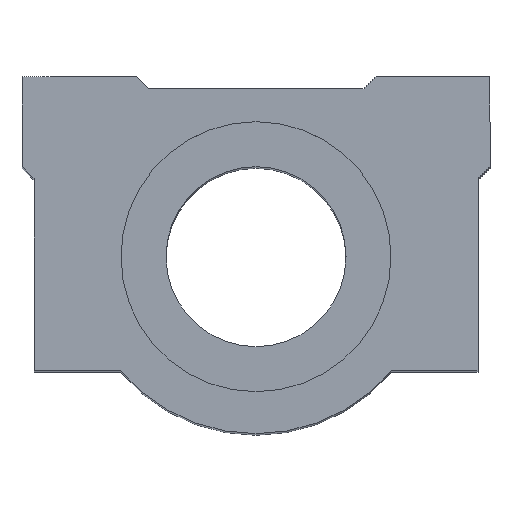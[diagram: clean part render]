
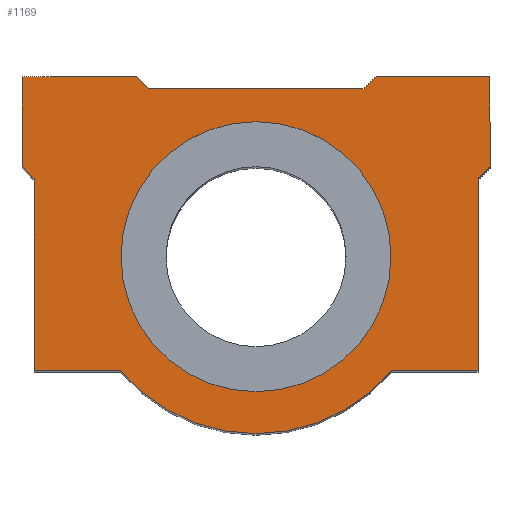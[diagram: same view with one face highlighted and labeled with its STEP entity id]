
A CAD part, top view. The second image highlights one B-rep face of the part: STEP entity #1169.
In plain terms, the highlighted planar face has unit normal (0, 0, 1).
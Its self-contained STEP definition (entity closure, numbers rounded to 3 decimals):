
#91=CARTESIAN_POINT('',(-23.209,4.198,152.0));
#92=VERTEX_POINT('',#91);
#101=CARTESIAN_POINT('',(21.791,4.198,152.0));
#102=VERTEX_POINT('',#101);
#103=CARTESIAN_POINT('',(-0.709,4.198,152.0));
#104=DIRECTION('',(0.0,0.0,-1.0));
#105=DIRECTION('',(-1.0,0.0,0.0));
#106=AXIS2_PLACEMENT_3D('',#103,#104,#105);
#107=CIRCLE('',#106,22.5);
#108=EDGE_CURVE('',#102,#92,#107,.T.);
#640=CARTESIAN_POINT('',(-0.709,4.198,152.0));
#641=DIRECTION('',(0.0,0.0,-1.0));
#642=DIRECTION('',(-1.0,0.0,0.0));
#643=AXIS2_PLACEMENT_3D('',#640,#641,#642);
#644=CIRCLE('',#643,22.5);
#645=EDGE_CURVE('',#92,#102,#644,.T.);
#780=CARTESIAN_POINT('',(38.291,19.198,152.0));
#781=VERTEX_POINT('',#780);
#782=CARTESIAN_POINT('',(36.291,17.198,152.0));
#783=VERTEX_POINT('',#782);
#784=CARTESIAN_POINT('',(38.291,19.198,152.0));
#785=DIRECTION('',(-0.707,-0.707,0.0));
#786=VECTOR('',#785,2.828);
#787=LINE('',#784,#786);
#788=EDGE_CURVE('',#781,#783,#787,.T.);
#811=CARTESIAN_POINT('',(36.291,-14.802,152.0));
#812=VERTEX_POINT('',#811);
#813=CARTESIAN_POINT('',(36.291,17.198,152.0));
#814=DIRECTION('',(0.0,-1.0,0.0));
#815=VECTOR('',#814,32.0);
#816=LINE('',#813,#815);
#817=EDGE_CURVE('',#783,#812,#816,.T.);
#835=CARTESIAN_POINT('',(21.858,-14.802,152.0));
#836=VERTEX_POINT('',#835);
#837=CARTESIAN_POINT('',(36.291,-14.802,152.0));
#838=DIRECTION('',(-1.0,0.0,0.0));
#839=VECTOR('',#838,14.433);
#840=LINE('',#837,#839);
#841=EDGE_CURVE('',#812,#836,#840,.T.);
#867=CARTESIAN_POINT('',(-23.275,-14.802,152.0));
#868=VERTEX_POINT('',#867);
#869=CARTESIAN_POINT('',(-0.709,4.198,152.0));
#870=DIRECTION('',(0.0,0.0,-1.0));
#871=DIRECTION('',(0.765,0.644,0.0));
#872=AXIS2_PLACEMENT_3D('',#869,#870,#871);
#873=CIRCLE('',#872,29.5);
#874=EDGE_CURVE('',#836,#868,#873,.T.);
#892=CARTESIAN_POINT('',(-37.709,-14.802,152.0));
#893=VERTEX_POINT('',#892);
#894=CARTESIAN_POINT('',(-23.275,-14.802,152.0));
#895=DIRECTION('',(-1.0,0.0,0.0));
#896=VECTOR('',#895,14.433);
#897=LINE('',#894,#896);
#898=EDGE_CURVE('',#868,#893,#897,.T.);
#924=CARTESIAN_POINT('',(-37.709,17.198,152.0));
#925=VERTEX_POINT('',#924);
#926=CARTESIAN_POINT('',(-37.709,-14.802,152.0));
#927=DIRECTION('',(0.0,1.0,0.0));
#928=VECTOR('',#927,32.);
#929=LINE('',#926,#928);
#930=EDGE_CURVE('',#893,#925,#929,.T.);
#948=CARTESIAN_POINT('',(-39.709,19.198,152.0));
#949=VERTEX_POINT('',#948);
#950=CARTESIAN_POINT('',(-37.709,17.198,152.0));
#951=DIRECTION('',(-0.707,0.707,0.0));
#952=VECTOR('',#951,2.828);
#953=LINE('',#950,#952);
#954=EDGE_CURVE('',#925,#949,#953,.T.);
#972=CARTESIAN_POINT('',(-39.709,34.198,152.0));
#973=VERTEX_POINT('',#972);
#974=CARTESIAN_POINT('',(-39.709,19.198,152.0));
#975=DIRECTION('',(0.0,1.0,0.0));
#976=VECTOR('',#975,15.0);
#977=LINE('',#974,#976);
#978=EDGE_CURVE('',#949,#973,#977,.T.);
#996=CARTESIAN_POINT('',(-20.709,34.198,152.0));
#997=VERTEX_POINT('',#996);
#998=CARTESIAN_POINT('',(-39.709,34.198,152.0));
#999=DIRECTION('',(1.0,0.0,0.0));
#1000=VECTOR('',#999,19.);
#1001=LINE('',#998,#1000);
#1002=EDGE_CURVE('',#973,#997,#1001,.T.);
#1028=CARTESIAN_POINT('',(-18.709,32.198,152.0));
#1029=VERTEX_POINT('',#1028);
#1030=CARTESIAN_POINT('',(-20.709,34.198,152.0));
#1031=DIRECTION('',(0.707,-0.707,0.0));
#1032=VECTOR('',#1031,2.828);
#1033=LINE('',#1030,#1032);
#1034=EDGE_CURVE('',#997,#1029,#1033,.T.);
#1052=CARTESIAN_POINT('',(17.291,32.198,152.0));
#1053=VERTEX_POINT('',#1052);
#1054=CARTESIAN_POINT('',(-18.709,32.198,152.0));
#1055=DIRECTION('',(1.0,0.0,0.0));
#1056=VECTOR('',#1055,36.0);
#1057=LINE('',#1054,#1056);
#1058=EDGE_CURVE('',#1029,#1053,#1057,.T.);
#1076=CARTESIAN_POINT('',(19.291,34.198,152.0));
#1077=VERTEX_POINT('',#1076);
#1078=CARTESIAN_POINT('',(17.291,32.198,152.0));
#1079=DIRECTION('',(0.707,0.707,0.0));
#1080=VECTOR('',#1079,2.828);
#1081=LINE('',#1078,#1080);
#1082=EDGE_CURVE('',#1053,#1077,#1081,.T.);
#1100=CARTESIAN_POINT('',(38.291,34.198,152.0));
#1101=VERTEX_POINT('',#1100);
#1102=CARTESIAN_POINT('',(19.291,34.198,152.0));
#1103=DIRECTION('',(1.0,0.0,0.0));
#1104=VECTOR('',#1103,19.);
#1105=LINE('',#1102,#1104);
#1106=EDGE_CURVE('',#1077,#1101,#1105,.T.);
#1132=CARTESIAN_POINT('',(38.291,34.198,152.0));
#1133=DIRECTION('',(0.0,-1.0,0.0));
#1134=VECTOR('',#1133,15.0);
#1135=LINE('',#1132,#1134);
#1136=EDGE_CURVE('',#1101,#781,#1135,.T.);
#1144=CARTESIAN_POINT('',(-0.709,8.165,152.0));
#1145=DIRECTION('',(0.0,0.0,1.0));
#1146=DIRECTION('',(1.0,0.0,0.0));
#1147=AXIS2_PLACEMENT_3D('',#1144,#1145,#1146);
#1148=PLANE('',#1147);
#1149=ORIENTED_EDGE('',*,*,#788,.F.);
#1150=ORIENTED_EDGE('',*,*,#1136,.F.);
#1151=ORIENTED_EDGE('',*,*,#1106,.F.);
#1152=ORIENTED_EDGE('',*,*,#1082,.F.);
#1153=ORIENTED_EDGE('',*,*,#1058,.F.);
#1154=ORIENTED_EDGE('',*,*,#1034,.F.);
#1155=ORIENTED_EDGE('',*,*,#1002,.F.);
#1156=ORIENTED_EDGE('',*,*,#978,.F.);
#1157=ORIENTED_EDGE('',*,*,#954,.F.);
#1158=ORIENTED_EDGE('',*,*,#930,.F.);
#1159=ORIENTED_EDGE('',*,*,#898,.F.);
#1160=ORIENTED_EDGE('',*,*,#874,.F.);
#1161=ORIENTED_EDGE('',*,*,#841,.F.);
#1162=ORIENTED_EDGE('',*,*,#817,.F.);
#1163=EDGE_LOOP('',(#1149,#1150,#1151,#1152,#1153,#1154,#1155,#1156,#1157,#1158,#1159,#1160,#1161,#1162));
#1164=FACE_OUTER_BOUND('',#1163,.T.);
#1165=ORIENTED_EDGE('',*,*,#108,.T.);
#1166=ORIENTED_EDGE('',*,*,#645,.T.);
#1167=EDGE_LOOP('',(#1165,#1166));
#1168=FACE_BOUND('',#1167,.T.);
#1169=ADVANCED_FACE('',(#1164,#1168),#1148,.T.);
